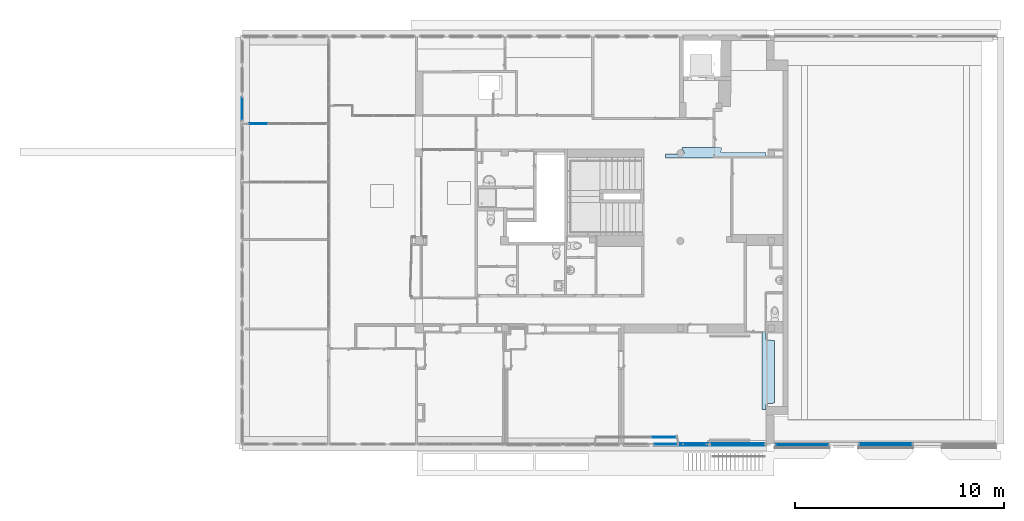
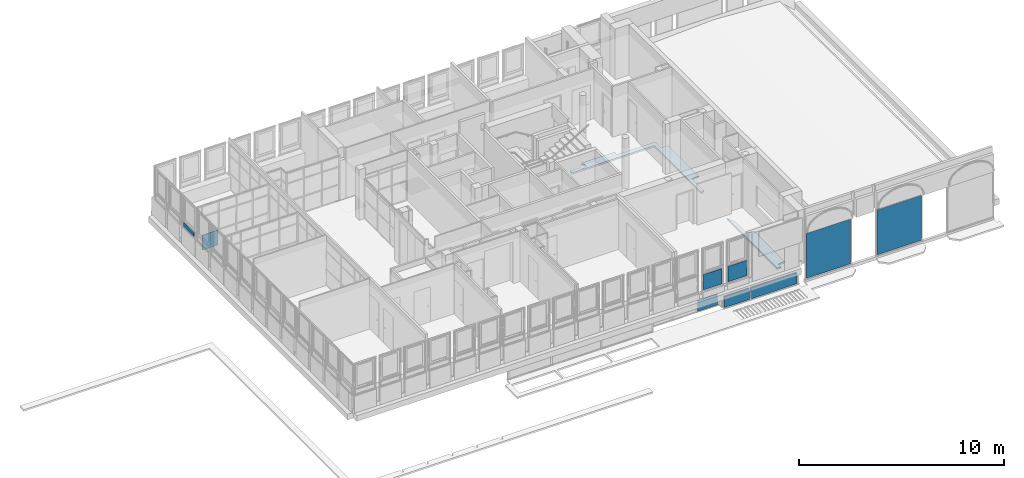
# One storey, part 30 of 97: 14 plates, 1 slab, 11 elements without a shape of their own.
"""IFC4 building model written with IfcOpenShell, lengths in metres."""

from ifc_helpers import new_model, entity, si_unit, converted_unit, derived_unit, direction, frame, origin, place, context, subcontext, project, spatial, indexed_curve, outline, extrude, shape, source, transform, mapped, material, layer, layer_set, type_object, type_shapes, element, aggregate, save


model = new_model("IFC4")

# Units and contexts
model_context = context("Model", 3, precision=1e-05, world=origin(), true_north=direction((6.12303176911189e-17, 1.0)))
body_context = subcontext(model_context, "Body", "Model", "MODEL_VIEW")
footprint_context = subcontext(model_context, "FootPrint", "Model", "MODEL_VIEW")
ifc_project = project(units=[si_unit("LENGTHUNIT", "METRE"), si_unit("AREAUNIT", "SQUARE_METRE"), si_unit("VOLUMEUNIT", "CUBIC_METRE"), converted_unit("PLANEANGLEUNIT", "DEGREE", entity("IfcRatioMeasure", 0.0174532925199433), si_unit("PLANEANGLEUNIT", "RADIAN"), dimensions=[0, 0, 0, 0, 0, 0, 0]), si_unit("MASSUNIT", "GRAM", prefix="KILO"), derived_unit("MASSDENSITYUNIT", [(si_unit("MASSUNIT", "GRAM", prefix="KILO"), 1), (si_unit("LENGTHUNIT", "METRE"), -3)]), derived_unit("MOMENTOFINERTIAUNIT", [(si_unit("LENGTHUNIT", "METRE"), 4)]), si_unit("TIMEUNIT", "SECOND"), si_unit("FREQUENCYUNIT", "HERTZ"), si_unit("THERMODYNAMICTEMPERATUREUNIT", "DEGREE_CELSIUS"), derived_unit("THERMALTRANSMITTANCEUNIT", [(si_unit("MASSUNIT", "GRAM", prefix="KILO"), 1), (si_unit("THERMODYNAMICTEMPERATUREUNIT", "KELVIN"), -1), (si_unit("TIMEUNIT", "SECOND"), -3)]), derived_unit("VOLUMETRICFLOWRATEUNIT", [(si_unit("LENGTHUNIT", "METRE"), 3), (si_unit("TIMEUNIT", "SECOND"), -1)]), si_unit("ELECTRICCURRENTUNIT", "AMPERE"), si_unit("ELECTRICVOLTAGEUNIT", "VOLT"), si_unit("POWERUNIT", "WATT"), si_unit("FORCEUNIT", "NEWTON", prefix="KILO"), si_unit("ILLUMINANCEUNIT", "LUX"), si_unit("LUMINOUSFLUXUNIT", "LUMEN"), si_unit("LUMINOUSINTENSITYUNIT", "CANDELA"), derived_unit("USERDEFINED", [(si_unit("MASSUNIT", "GRAM", prefix="KILO"), -1), (si_unit("LENGTHUNIT", "METRE"), -2), (si_unit("TIMEUNIT", "SECOND"), 3), (si_unit("LUMINOUSFLUXUNIT", "LUMEN"), 1)]), derived_unit("LINEARVELOCITYUNIT", [(si_unit("LENGTHUNIT", "METRE"), 1), (si_unit("TIMEUNIT", "SECOND"), -1)]), si_unit("PRESSUREUNIT", "PASCAL"), derived_unit("USERDEFINED", [(si_unit("LENGTHUNIT", "METRE"), -2), (si_unit("MASSUNIT", "GRAM", prefix="KILO"), 1), (si_unit("TIMEUNIT", "SECOND"), -2)]), derived_unit("LINEARFORCEUNIT", [(si_unit("MASSUNIT", "GRAM", prefix="KILO"), 1), (si_unit("LENGTHUNIT", "METRE"), 1), (si_unit("TIMEUNIT", "SECOND"), -2), (si_unit("LENGTHUNIT", "METRE"), -1)]), derived_unit("PLANARFORCEUNIT", [(si_unit("MASSUNIT", "GRAM", prefix="KILO"), 1), (si_unit("LENGTHUNIT", "METRE"), 1), (si_unit("TIMEUNIT", "SECOND"), -2), (si_unit("LENGTHUNIT", "METRE"), -2)])], contexts=[model_context])

# Site, building, storey
site_placement = place(None, origin())
site = spatial("IfcSite", under=ifc_project, at=site_placement, Name="Default", CompositionType="ELEMENT")
building_placement = place(site_placement, origin())
building = spatial("IfcBuilding", under=site, at=building_placement, Name="HOTEL CONSULAIRE BOULOGNE SUR MER", CompositionType="ELEMENT")
storey_placement = place(building_placement, frame((0.0, 0.0, 3.62152697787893)))
storey = spatial("IfcBuildingStorey", under=building, at=storey_placement, Name="Niveau 1", CompositionType="ELEMENT", Elevation=3.62152697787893)

# Curtain wall, plate
curtain_wall_type = type_object("IfcCurtainWallType", Name="Mur-rideau:Simple panneau", PredefinedType="NOTDEFINED")
curtain_wall_1_placement = place(storey_placement, frame((0.0, 0.0, -3.62152697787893)))
curtain_wall_1 = element("IfcCurtainWall", 1, at=curtain_wall_1_placement, inside=storey, type_object=curtain_wall_type, Name="Mur-rideau:Simple panneau", ObjectType="Mur-rideau:Simple panneau", PredefinedType="NOTDEFINED")
ifc_material_1 = material(Name="Verre", Category="Verre")
ifc_layer_1 = layer(ifc_material_1, 0.04, Name="Verre", Category="Verre")
ifc_layer_set_1 = layer_set([ifc_layer_1], Name="Mur-rideau:Simple panneau")
plate_type_1 = type_object("IfcPlateType", Name="Panneau système:Vitré", PredefinedType="CURTAIN_PANEL", material=ifc_layer_set_1)
shared_shape_1 = source(origin(), body_context, "Body", "SweptSolid", [
    extrude(outline(indexed_curve([(-0.02, -0.7085), (0.02, -0.7085), (0.02, 0.7085), (-0.02, 0.7085), (-0.02, -0.7085)], self_intersect=False)), frame((0.7085, 0.02, 0.0), z_axis=(0.0, 0.0, 1.0), x_axis=(0.0, 1.0, 0.0)), (0.0, 0.0, 1.0), 0.642526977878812),
])
shared_shape_2 = source(frame((-0.7085, 0.00500000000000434, 0.0)), footprint_context, "FootPrint", "Curve2D", [
    entity("IfcIndexedPolyCurve", entity("IfcCartesianPointList2D", [[0.924450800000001, 0.00347600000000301], [0.924450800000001, 0.043476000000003], [-0.4925492, 0.043476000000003], [-0.4925492, 0.00347600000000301], [0.924450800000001, 0.00347600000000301]]), None, False),
])
type_shapes(plate_type_1, [shared_shape_1, shared_shape_2])
plate_1_placement = place(curtain_wall_1_placement, frame((7.09517677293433, -29.5930671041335, 2.36600000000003)))
plate_1 = element("IfcPlate", 2, at=plate_1_placement, type_object=plate_type_1, material=ifc_layer_set_1, Name="Panneau système:Vitré", ObjectType="Panneau système:Vitré", PredefinedType="CURTAIN_PANEL", shapes=[
    shape(body_context, "Body", "MappedRepresentation", [mapped(shared_shape_1, transform((0.0, 0.0, 0.0), scale=1.0))]),
    shape(body_context, "Body", "MappedRepresentation", [mapped(shared_shape_2, transform((0.0, 0.0, 0.0), scale=1.0))]),
])

curtain_wall_2_placement = place(storey_placement, frame((0.0, 0.0, -3.62152697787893)))
curtain_wall_2 = element("IfcCurtainWall", 3, at=curtain_wall_2_placement, inside=storey, type_object=curtain_wall_type, Name="Mur-rideau:Simple panneau", ObjectType="Mur-rideau:Simple panneau", PredefinedType="NOTDEFINED")
plate_2_placement = place(curtain_wall_2_placement, frame((7.09517677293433, -29.6320671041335, 2.36600000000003)))
plate_2 = element("IfcPlate", 4, at=plate_2_placement, type_object=plate_type_1, material=ifc_layer_set_1, Name="Panneau système:Vitré", ObjectType="Panneau système:Vitré", PredefinedType="CURTAIN_PANEL", shapes=[
    shape(body_context, "Body", "MappedRepresentation", [mapped(shared_shape_1, transform((0.0, 0.0, 0.0), scale=1.0))]),
    shape(body_context, "Body", "MappedRepresentation", [mapped(shared_shape_2, transform((0.0, 0.0, 0.0), scale=1.0))]),
])

curtain_wall_3_placement = place(storey_placement, frame((0.0, 0.0, -3.62152697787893)))
curtain_wall_3 = element("IfcCurtainWall", 5, at=curtain_wall_3_placement, inside=storey, type_object=curtain_wall_type, Name="Mur-rideau:Simple panneau", ObjectType="Mur-rideau:Simple panneau", PredefinedType="NOTDEFINED")
plate_3_placement = place(curtain_wall_3_placement, frame((7.09517677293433, -29.5673138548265, 2.36600000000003)))
plate_3 = element("IfcPlate", 6, at=plate_3_placement, type_object=plate_type_1, material=ifc_layer_set_1, Name="Panneau système:Vitré", ObjectType="Panneau système:Vitré", PredefinedType="CURTAIN_PANEL", shapes=[
    shape(body_context, "Body", "MappedRepresentation", [mapped(shared_shape_1, transform((0.0, 0.0, 0.0), scale=1.0))]),
    shape(body_context, "Body", "MappedRepresentation", [mapped(shared_shape_2, transform((0.0, 0.0, 0.0), scale=1.0))]),
])

# Plate
plate_type_2 = type_object("IfcPlateType", Name="Panneau système:Vitré", PredefinedType="CURTAIN_PANEL", material=ifc_layer_set_1)
shared_shape_3 = source(origin(), body_context, "Body", "SweptSolid", [
    extrude(outline(indexed_curve([(-0.02, -1.29723076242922), (0.02, -1.29723076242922), (0.02, 1.29723076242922), (-0.02, 1.29723076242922), (-0.02, -1.29723076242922)], self_intersect=False)), frame((1.29723076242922, 0.02, 0.0), z_axis=(0.0, 0.0, 1.0), x_axis=(0.0, 1.0, 0.0)), (0.0, 0.0, 1.0), 0.642526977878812),
])
shared_shape_4 = source(frame((-1.29723076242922, 0.00500000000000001, 0.0)), footprint_context, "FootPrint", "Curve2D", [
    entity("IfcIndexedPolyCurve", entity("IfcCartesianPointList2D", [[1.69262669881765, 0.003476], [1.69262669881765, 0.043476], [-0.901834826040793, 0.043476], [-0.901834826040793, 0.003476], [1.69262669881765, 0.003476]]), None, False),
])
type_shapes(plate_type_2, [shared_shape_3, shared_shape_4])
plate_4_placement = place(curtain_wall_1_placement, frame((8.61217677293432, -29.5930671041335, 2.36600000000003)))
plate_4 = element("IfcPlate", 7, at=plate_4_placement, type_object=plate_type_2, material=ifc_layer_set_1, Name="Panneau système:Vitré", ObjectType="Panneau système:Vitré", PredefinedType="CURTAIN_PANEL", shapes=[
    shape(body_context, "Body", "MappedRepresentation", [mapped(shared_shape_3, transform((0.0, 0.0, 0.0), scale=1.0))]),
    shape(body_context, "Body", "MappedRepresentation", [mapped(shared_shape_4, transform((0.0, 0.0, 0.0), scale=1.0))]),
])

aggregate(curtain_wall_1, [plate_1, plate_4])

plate_5_placement = place(curtain_wall_2_placement, frame((8.61217677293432, -29.6320671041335, 2.36600000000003)))
plate_5 = element("IfcPlate", 8, at=plate_5_placement, type_object=plate_type_2, material=ifc_layer_set_1, Name="Panneau système:Vitré", ObjectType="Panneau système:Vitré", PredefinedType="CURTAIN_PANEL", shapes=[
    shape(body_context, "Body", "MappedRepresentation", [mapped(shared_shape_3, transform((0.0, 0.0, 0.0), scale=1.0))]),
    shape(body_context, "Body", "MappedRepresentation", [mapped(shared_shape_4, transform((0.0, 0.0, 0.0), scale=1.0))]),
])

aggregate(curtain_wall_2, [plate_2, plate_5])

# Curtain wall, plate
curtain_wall_4_placement = place(storey_placement, frame((0.0, 0.0, -3.62152697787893)))
curtain_wall_4 = element("IfcCurtainWall", 9, at=curtain_wall_4_placement, inside=storey, type_object=curtain_wall_type, Name="Mur-rideau:Simple panneau", ObjectType="Mur-rideau:Simple panneau", PredefinedType="NOTDEFINED")
plate_type_3 = type_object("IfcPlateType", Name="Panneau système:Vitré", PredefinedType="CURTAIN_PANEL", material=ifc_layer_set_1)
shared_shape_5 = source(origin(), body_context, "Body", "SweptSolid", [
    extrude(outline(indexed_curve([(-0.02, -0.5655), (0.02, -0.5655), (0.02, 0.5655), (-0.02, 0.5655), (-0.02, -0.5655)], self_intersect=False)), frame((0.5655, 0.02, 0.0), z_axis=(0.0, 0.0, 1.0), x_axis=(0.0, 1.0, 0.0)), (0.0, 0.0, 1.0), 0.642526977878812),
])
shared_shape_6 = source(frame((-0.565500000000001, 0.00500000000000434, 0.0)), footprint_context, "FootPrint", "Curve2D", [
    entity("IfcIndexedPolyCurve", entity("IfcCartesianPointList2D", [[0.7378644, 0.00347600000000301], [0.7378644, 0.043476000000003], [-0.393135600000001, 0.043476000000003], [-0.393135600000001, 0.00347600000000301], [0.7378644, 0.00347600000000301]]), None, False),
])
type_shapes(plate_type_3, [shared_shape_5, shared_shape_6])
plate_6_placement = place(curtain_wall_4_placement, frame((5.80813741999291, -29.2507686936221, 2.36600000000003)))
plate_6 = element("IfcPlate", 10, at=plate_6_placement, type_object=plate_type_3, material=ifc_layer_set_1, Name="Panneau système:Vitré", ObjectType="Panneau système:Vitré", PredefinedType="CURTAIN_PANEL", shapes=[
    shape(body_context, "Body", "MappedRepresentation", [mapped(shared_shape_5, transform((0.0, 0.0, 0.0), scale=1.0))]),
    shape(body_context, "Body", "MappedRepresentation", [mapped(shared_shape_6, transform((0.0, 0.0, 0.0), scale=1.0))]),
])
aggregate(curtain_wall_4, [plate_6])

# Slab
ifc_material_2 = material(Name="Béton, coulé sur place", Category="Béton")
ifc_layer_2 = layer(ifc_material_2, 0.1, Name="Béton, coulé sur place", Category="Béton")
ifc_layer_set_2 = layer_set([ifc_layer_2], Name="Sol:béton 100")
slab_type = type_object("IfcSlabType", Name="Sol:béton 100", PredefinedType="FLOOR", material=ifc_layer_set_2)
slab_placement = place(storey_placement, origin())
element("IfcSlab", 11, at=slab_placement, inside=storey, type_object=slab_type, material=ifc_layer_set_2, Name="Sol:béton 100", ObjectType="Sol:béton 100", PredefinedType="FLOOR", context=body_context, shape_type="SweptSolid", body=[
    extrude(outline(indexed_curve([(2.19234853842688, -0.843859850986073), (2.74088437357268, -0.843859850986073), (-1.82199301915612, 1.02036793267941), (-1.90045920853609, 0.828314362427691), (-1.64920598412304, 0.72566132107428), (-1.76142629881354, 0.339978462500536), (1.00820494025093, -0.791593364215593), (1.19164665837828, -0.435009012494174), (2.19234853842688, -0.843859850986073)], self_intersect=False)), frame((11.3250040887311, -25.8408877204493, -1.41537669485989), z_axis=(0.0, 0.0, 1.0), x_axis=(-0.378215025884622, 0.92571777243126, 0.0)), (0.0, 0.0, 1.0), 0.1),
    extrude(outline(indexed_curve([(-3.07080657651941, -1.01812532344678), (-3.07080657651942, -1.21556069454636), (-2.5101782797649, -1.21556069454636), (-2.48772788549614, -1.17404928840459), (-2.45473022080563, -1.14030953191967), (-2.41372829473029, -1.11694162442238), (-2.36788197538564, -1.10574644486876), (-2.32072447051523, -1.10758676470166), (-2.27589003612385, -1.12232075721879), (-2.23683389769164, -1.14881292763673), (-2.20656596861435, -1.18502162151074), (-2.18741888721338, -1.22815636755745), (-2.18086824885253, -1.27489292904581), (-2.1818972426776, -1.29356909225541), (-2.18497176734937, -1.31201916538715), (-2.19005460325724, -1.33001979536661), (-2.19708421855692, -1.34735306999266), (-2.20597551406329, -1.36380915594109), (-2.2166208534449, -1.37918883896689), (-2.22889136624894, -1.393305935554), (-2.24263850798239, -1.40598954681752), (-2.25769585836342, -1.4170861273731), (-2.27388113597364, -1.42646134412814), (-2.27205063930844, -1.51556069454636), (-0.394647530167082, -1.51556069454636), (-0.39829763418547, -1.27489292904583), (1.74857096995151, -1.27489292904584), (1.74857096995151, -0.718447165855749), (2.15443285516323, -0.675789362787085), (2.15443285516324, 2.3065563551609), (1.74857096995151, 2.35154703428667), (1.74857096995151, 2.4028011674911), (1.74857096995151, 3.5029423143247), (1.55990803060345, 3.58002321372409), (1.55990803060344, -1.01812532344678), (-3.07080657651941, -1.01812532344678)], self_intersect=False)), frame((9.52204502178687, -16.8908027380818, -1.41537669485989), z_axis=(0.0, 0.0, -1.0), x_axis=(1.0, 0.0, 0.0)), (0.0, 0.0, -1.0), 0.1),
])

# Curtain wall, plate
curtain_wall_5_placement = place(storey_placement, frame((0.0, 0.0, -3.62152697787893)))
curtain_wall_5 = element("IfcCurtainWall", 12, at=curtain_wall_5_placement, inside=storey, type_object=curtain_wall_type, Name="Mur-rideau:Simple panneau", ObjectType="Mur-rideau:Simple panneau", PredefinedType="NOTDEFINED")
plate_type_4 = type_object("IfcPlateType", Name="Panneau système:Vitré", PredefinedType="CURTAIN_PANEL", material=ifc_layer_set_1)
shared_shape_7 = source(origin(), body_context, "Body", "SweptSolid", [
    extrude(outline(indexed_curve([(-0.02, -0.530000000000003), (0.02, -0.530000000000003), (0.02, 0.530000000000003), (-0.02, 0.530000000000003), (-0.02, -0.530000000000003)], self_intersect=False)), frame((0.530000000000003, 0.02, 0.0), z_axis=(0.0, 0.0, 1.0), x_axis=(0.0, 1.0, 0.0)), (0.0, 0.0, 1.0), 0.243),
])
shared_shape_8 = source(frame((-0.530000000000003, 0.00500000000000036, 0.0)), footprint_context, "FootPrint", "Curve2D", [
    entity("IfcIndexedPolyCurve", entity("IfcCartesianPointList2D", [[0.691544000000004, 0.00347600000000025], [0.691544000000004, 0.0434760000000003], [-0.368456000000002, 0.0434760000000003], [-0.368456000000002, 0.00347600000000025], [0.691544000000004, 0.00347600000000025]]), None, False),
])
type_shapes(plate_type_4, [shared_shape_7, shared_shape_8])
plate_7_placement = place(curtain_wall_5_placement, frame((-13.7920998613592, -14.0414499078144, 4.48313951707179), z_axis=(0.0, 0.0, 1.0), x_axis=(0.0, 1.0, 0.0)))
plate_7 = element("IfcPlate", 13, at=plate_7_placement, type_object=plate_type_4, material=ifc_layer_set_1, Name="Panneau système:Vitré", ObjectType="Panneau système:Vitré", PredefinedType="CURTAIN_PANEL", shapes=[
    shape(body_context, "Body", "MappedRepresentation", [mapped(shared_shape_7, transform((0.0, 0.0, 0.0), scale=1.0))]),
    shape(body_context, "Body", "MappedRepresentation", [mapped(shared_shape_8, transform((0.0, 0.0, 0.0), scale=1.0))]),
])
aggregate(curtain_wall_5, [plate_7])

curtain_wall_6_placement = place(storey_placement, frame((0.0, 0.0, -3.62152697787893)))
curtain_wall_6 = element("IfcCurtainWall", 14, at=curtain_wall_6_placement, inside=storey, type_object=curtain_wall_type, Name="Mur-rideau:Simple panneau", ObjectType="Mur-rideau:Simple panneau", PredefinedType="NOTDEFINED")
plate_type_5 = type_object("IfcPlateType", Name="Panneau système:Vitré", PredefinedType="CURTAIN_PANEL", material=ifc_layer_set_1)
shared_shape_9 = source(origin(), body_context, "Body", "SweptSolid", [
    extrude(outline(indexed_curve([(-0.02, -0.53), (0.02, -0.53), (0.02, 0.53), (-0.02, 0.53), (-0.02, -0.53)], self_intersect=False)), frame((0.53, 0.02, 0.0), z_axis=(0.0, 0.0, 1.0), x_axis=(0.0, 1.0, 0.0)), (0.0, 0.0, 1.0), 0.919),
])
shared_shape_10 = source(frame((-0.53, 0.00499999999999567, 0.0)), footprint_context, "FootPrint", "Curve2D", [
    entity("IfcIndexedPolyCurve", entity("IfcCartesianPointList2D", [[0.691543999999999, 0.00347599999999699], [0.691543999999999, 0.043475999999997], [-0.368456, 0.043475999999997], [-0.368456, 0.00347599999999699], [0.691543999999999, 0.00347599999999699]]), None, False),
])
type_shapes(plate_type_5, [shared_shape_9, shared_shape_10])
plate_8_placement = place(curtain_wall_6_placement, frame((6.98858002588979, -29.5551047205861, 3.80762929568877), z_axis=(0.0, 0.0, 1.0), x_axis=(-1.0, 0.0, 0.0)))
plate_8 = element("IfcPlate", 15, at=plate_8_placement, type_object=plate_type_5, material=ifc_layer_set_1, Name="Panneau système:Vitré", ObjectType="Panneau système:Vitré", PredefinedType="CURTAIN_PANEL", shapes=[
    shape(body_context, "Body", "MappedRepresentation", [mapped(shared_shape_9, transform((0.0, 0.0, 0.0), scale=1.0))]),
    shape(body_context, "Body", "MappedRepresentation", [mapped(shared_shape_10, transform((0.0, 0.0, 0.0), scale=1.0))]),
])
aggregate(curtain_wall_6, [plate_8])

curtain_wall_7_placement = place(storey_placement, frame((0.0, 0.0, -3.62152697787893)))
curtain_wall_7 = element("IfcCurtainWall", 16, at=curtain_wall_7_placement, inside=storey, type_object=curtain_wall_type, Name="Mur-rideau:Simple panneau", ObjectType="Mur-rideau:Simple panneau", PredefinedType="NOTDEFINED")
plate_9_placement = place(curtain_wall_7_placement, frame((8.38858002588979, -29.5551047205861, 3.80762929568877), z_axis=(0.0, 0.0, 1.0), x_axis=(-1.0, 0.0, 0.0)))
plate_9 = element("IfcPlate", 17, at=plate_9_placement, type_object=plate_type_5, material=ifc_layer_set_1, Name="Panneau système:Vitré", ObjectType="Panneau système:Vitré", PredefinedType="CURTAIN_PANEL", shapes=[
    shape(body_context, "Body", "MappedRepresentation", [mapped(shared_shape_9, transform((0.0, 0.0, 0.0), scale=1.0))]),
    shape(body_context, "Body", "MappedRepresentation", [mapped(shared_shape_10, transform((0.0, 0.0, 0.0), scale=1.0))]),
])
aggregate(curtain_wall_7, [plate_9])

# Plate
plate_type_6 = type_object("IfcPlateType", Name="Panneau système:Vitré", PredefinedType="CURTAIN_PANEL", material=ifc_layer_set_1)
shared_shape_11 = source(origin(), body_context, "Body", "SweptSolid", [
    extrude(outline(indexed_curve([(-0.02, -1.28241210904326), (0.02, -1.28241210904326), (0.02, 1.28241210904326), (-0.02, 1.28241210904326), (-0.02, -1.28241210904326)], self_intersect=False)), frame((1.28241210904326, 0.02, 0.0), z_axis=(0.0, 0.0, 1.0), x_axis=(0.0, 1.0, 0.0)), (0.0, 0.0, 1.0), 0.642526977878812),
])
shared_shape_12 = source(frame((-1.28241210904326, 0.00500000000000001, 0.0)), footprint_context, "FootPrint", "Curve2D", [
    entity("IfcIndexedPolyCurve", entity("IfcCartesianPointList2D", [[1.67329131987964, 0.003476], [1.67329131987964, 0.043476], [-0.891532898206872, 0.043476], [-0.891532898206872, 0.003476], [1.67329131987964, 0.003476]]), None, False),
])
type_shapes(plate_type_6, [shared_shape_11, shared_shape_12])
plate_10_placement = place(curtain_wall_3_placement, frame((8.61217677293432, -29.5673138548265, 2.36600000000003)))
plate_10 = element("IfcPlate", 18, at=plate_10_placement, type_object=plate_type_6, material=ifc_layer_set_1, Name="Panneau système:Vitré", ObjectType="Panneau système:Vitré", PredefinedType="CURTAIN_PANEL", shapes=[
    shape(body_context, "Body", "MappedRepresentation", [mapped(shared_shape_11, transform((0.0, 0.0, 0.0), scale=1.0))]),
    shape(body_context, "Body", "MappedRepresentation", [mapped(shared_shape_12, transform((0.0, 0.0, 0.0), scale=1.0))]),
])

aggregate(curtain_wall_3, [plate_3, plate_10])

# Curtain wall, plate
curtain_wall_8_placement = place(storey_placement, frame((0.0, 0.0, -3.62152697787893)))
curtain_wall_8 = element("IfcCurtainWall", 19, at=curtain_wall_8_placement, inside=storey, type_object=curtain_wall_type, Name="Mur-rideau:Simple panneau", ObjectType="Mur-rideau:Simple panneau", PredefinedType="NOTDEFINED")
ifc_layer_3 = layer(ifc_material_1, 0.04, Name="Verre", Category="Verre")
ifc_layer_set_3 = layer_set([ifc_layer_3], Name="Mur-rideau:Simple panneau")
plate_type_7 = type_object("IfcPlateType", Name="Panneau système:Plein", PredefinedType="CURTAIN_PANEL", material=ifc_layer_set_3)
shared_shape_13 = source(origin(), body_context, "Body", "SweptSolid", [
    extrude(outline(indexed_curve([(-0.02, -0.439001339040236), (0.02, -0.439001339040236), (0.02, 0.439001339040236), (-0.02, 0.439001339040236), (-0.02, -0.439001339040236)], self_intersect=False)), frame((0.439001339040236, 0.02, 0.0), z_axis=(0.0, 0.0, 1.0), x_axis=(0.0, 1.0, 0.0)), (0.0, 0.0, 1.0), 0.892),
])
shared_shape_14 = source(frame((-0.439001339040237, 0.00500000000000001, 0.0)), footprint_context, "FootPrint", "Curve2D", [
    entity("IfcIndexedPolyCurve", entity("IfcCartesianPointList2D", [[0.572808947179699, 0.003476], [0.572808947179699, 0.043476], [-0.305193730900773, 0.043476], [-0.305193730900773, 0.003476], [0.572808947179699, 0.003476]]), None, False),
])
type_shapes(plate_type_7, [shared_shape_13, shared_shape_14])
plate_11_placement = place(curtain_wall_8_placement, frame((-13.4711025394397, -14.2424499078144, 3.67152697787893)))
plate_11 = element("IfcPlate", 20, at=plate_11_placement, type_object=plate_type_7, material=ifc_layer_set_3, Name="Panneau système:Plein", ObjectType="Panneau système:Plein", PredefinedType="CURTAIN_PANEL", shapes=[
    shape(body_context, "Body", "MappedRepresentation", [mapped(shared_shape_13, transform((0.0, 0.0, 0.0), scale=1.0))]),
    shape(body_context, "Body", "MappedRepresentation", [mapped(shared_shape_14, transform((0.0, 0.0, 0.0), scale=1.0))]),
])
aggregate(curtain_wall_8, [plate_11])

curtain_wall_9_placement = place(storey_placement, frame((0.0, 0.0, -3.62152697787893)))
curtain_wall_9 = element("IfcCurtainWall", 21, at=curtain_wall_9_placement, inside=storey, type_object=curtain_wall_type, Name="Mur-rideau:Simple panneau", ObjectType="Mur-rideau:Simple panneau", PredefinedType="NOTDEFINED")
plate_type_8 = type_object("IfcPlateType", Name="Panneau système:Vitré", PredefinedType="CURTAIN_PANEL", material=ifc_layer_set_1)
shared_shape_15 = source(origin(), body_context, "Body", "SweptSolid", [
    extrude(outline(indexed_curve([(-0.02, -1.24752715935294), (0.02, -1.24752715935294), (0.02, 1.24752715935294), (-0.02, 1.24752715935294), (-0.02, -1.24752715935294)], self_intersect=False)), frame((1.24752715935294, 0.02, 0.0), z_axis=(0.0, 0.0, 1.0), x_axis=(0.0, 1.0, 0.0)), (0.0, 0.0, 1.0), 2.67503552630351),
])
shared_shape_16 = source(frame((-1.24752715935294, 0.00500000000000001, 0.0)), footprint_context, "FootPrint", "Curve2D", [
    entity("IfcIndexedPolyCurve", entity("IfcCartesianPointList2D", [[1.62777343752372, 0.003476], [1.62777343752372, 0.043476], [-0.867280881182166, 0.043476], [-0.867280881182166, 0.003476], [1.62777343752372, 0.003476]]), None, False),
])
type_shapes(plate_type_8, [shared_shape_15, shared_shape_16])
plate_12_placement = place(curtain_wall_9_placement, frame((15.7384235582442, -29.6090671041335, 2.48152697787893)))
plate_12 = element("IfcPlate", 22, at=plate_12_placement, type_object=plate_type_8, material=ifc_layer_set_1, Name="Panneau système:Vitré", ObjectType="Panneau système:Vitré", PredefinedType="CURTAIN_PANEL", shapes=[
    shape(body_context, "Body", "MappedRepresentation", [mapped(shared_shape_15, transform((0.0, 0.0, 0.0), scale=1.0))]),
    shape(body_context, "Body", "MappedRepresentation", [mapped(shared_shape_16, transform((0.0, 0.0, 0.0), scale=1.0))]),
])
aggregate(curtain_wall_9, [plate_12])

curtain_wall_10_placement = place(storey_placement, frame((0.0, 0.0, -3.62152697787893)))
curtain_wall_10 = element("IfcCurtainWall", 23, at=curtain_wall_10_placement, inside=storey, type_object=curtain_wall_type, Name="Mur-rideau:Simple panneau", ObjectType="Mur-rideau:Simple panneau", PredefinedType="NOTDEFINED")
plate_type_9 = type_object("IfcPlateType", Name="Panneau système:Vitré", PredefinedType="CURTAIN_PANEL", material=ifc_layer_set_1)
shared_shape_17 = source(origin(), body_context, "Body", "SweptSolid", [
    extrude(outline(indexed_curve([(-0.02, -1.245), (0.02, -1.245), (0.02, 1.245), (-0.02, 1.245), (-0.02, -1.245)], self_intersect=False)), frame((1.245, 0.02, 0.0), z_axis=(0.0, 0.0, 1.0), x_axis=(0.0, 1.0, 0.0)), (0.0, 0.0, 1.0), 2.67503552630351),
])
shared_shape_18 = source(frame((-1.245, 0.00500000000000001, 0.0)), footprint_context, "FootPrint", "Curve2D", [
    entity("IfcIndexedPolyCurve", entity("IfcCartesianPointList2D", [[1.624476, 0.003476], [1.624476, 0.043476], [-0.865524, 0.043476], [-0.865524, 0.003476], [1.624476, 0.003476]]), None, False),
])
type_shapes(plate_type_9, [shared_shape_17, shared_shape_18])
plate_13_placement = place(curtain_wall_10_placement, frame((11.7464778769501, -29.6090671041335, 2.48152697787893)))
plate_13 = element("IfcPlate", 24, at=plate_13_placement, type_object=plate_type_9, material=ifc_layer_set_1, Name="Panneau système:Vitré", ObjectType="Panneau système:Vitré", PredefinedType="CURTAIN_PANEL", shapes=[
    shape(body_context, "Body", "MappedRepresentation", [mapped(shared_shape_17, transform((0.0, 0.0, 0.0), scale=1.0))]),
    shape(body_context, "Body", "MappedRepresentation", [mapped(shared_shape_18, transform((0.0, 0.0, 0.0), scale=1.0))]),
])
aggregate(curtain_wall_10, [plate_13])

curtain_wall_11_placement = place(storey_placement, frame((0.0, 0.0, -3.62152697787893)))
curtain_wall_11 = element("IfcCurtainWall", 25, at=curtain_wall_11_placement, inside=storey, type_object=curtain_wall_type, Name="Mur-rideau:Simple panneau", ObjectType="Mur-rideau:Simple panneau", PredefinedType="NOTDEFINED")
plate_14_placement = place(curtain_wall_11_placement, frame((15.7577848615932, -29.5690671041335, 2.48152697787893)))
plate_14 = element("IfcPlate", 26, at=plate_14_placement, type_object=plate_type_9, material=ifc_layer_set_1, Name="Panneau système:Vitré", ObjectType="Panneau système:Vitré", PredefinedType="CURTAIN_PANEL", shapes=[
    shape(body_context, "Body", "MappedRepresentation", [mapped(shared_shape_17, transform((0.0, 0.0, 0.0), scale=1.0))]),
    shape(body_context, "Body", "MappedRepresentation", [mapped(shared_shape_18, transform((0.0, 0.0, 0.0), scale=1.0))]),
])
aggregate(curtain_wall_11, [plate_14])

save(model, "model.ifc")
